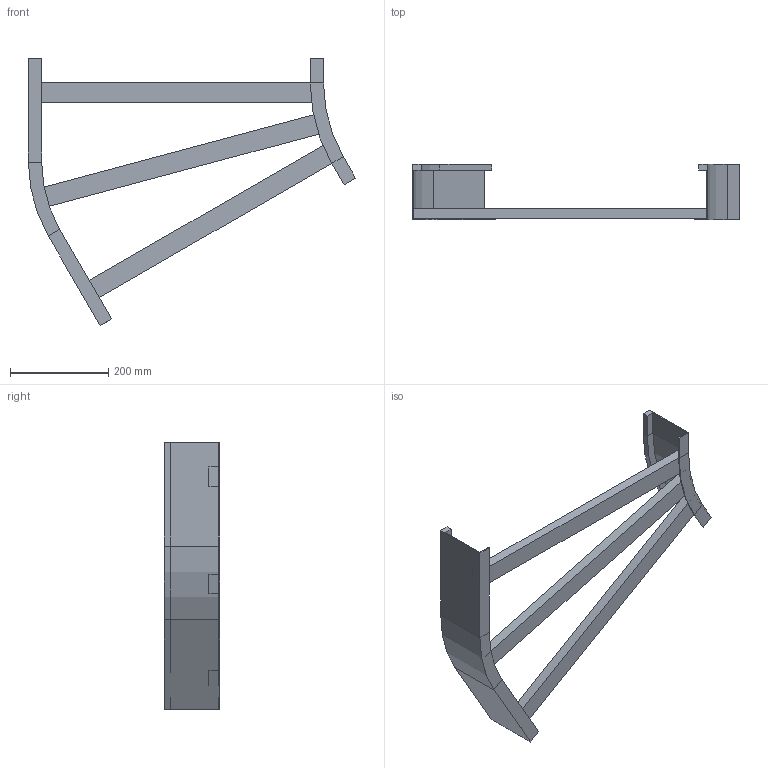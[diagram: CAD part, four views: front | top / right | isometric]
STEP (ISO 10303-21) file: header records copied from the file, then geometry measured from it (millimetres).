
FILE_DESCRIPTION (( 'STEP AP214' ), '1' );
FILE_NAME ('B2_12B3J600.step', '2025-02-21T15:09:39', ( '' ), ( '' ), 'SwSTEP 2.0', 'SolidWorks 2023', '' );
FILE_SCHEMA (( 'AUTOMOTIVE_DESIGN' ));
Length unit declared in the file: millimetre
Products named in the file (5): TRAVERSINO_L616; B2_LONGH.ESTERNO 30°_H112.5_R300+600; B2_12B3J600; TRAVERSINO_600; B2_LONGH.INTERNO 30°_H112.5_R300
Assembly tree (5 placements, depth 2):
  B2_12B3J600
    B2_LONGH.INTERNO 30°_H112.5_R300
    B2_LONGH.ESTERNO 30°_H112.5_R300+600
    TRAVERSINO_600  x2
    TRAVERSINO_L616
Bounding box: 665.19 x 112.5 x 543.3 mm (x, y, z)
Volume: 1854751.1 mm3; surface area: 485398.2 mm2
Topology: 5 solids, 5 shells, 70 faces, 148 edges, 88 vertices
Faces by surface type: plane 62, cylinder 8
Entity records: 1822 total; most frequent: DIRECTION 296, CARTESIAN_POINT 288, ORIENTED_EDGE 272, EDGE_CURVE 136, LINE 120, VECTOR 120, AXIS2_PLACEMENT_3D 88, VERTEX_POINT 80
